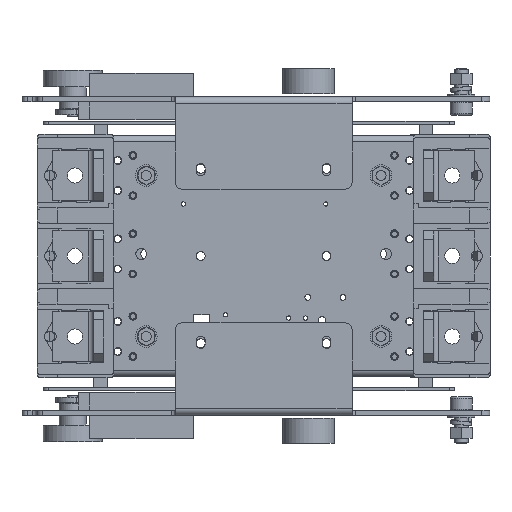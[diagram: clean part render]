
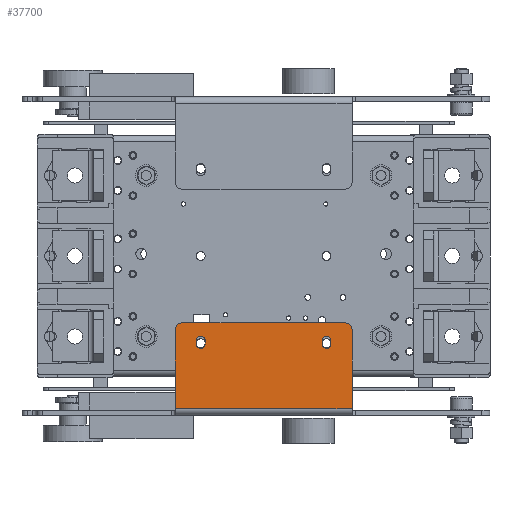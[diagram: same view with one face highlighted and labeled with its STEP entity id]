
A CAD part, front view. The second image highlights one B-rep face of the part: STEP entity #37700.
In plain terms, the highlighted planar face has unit normal (0, -1, 0).
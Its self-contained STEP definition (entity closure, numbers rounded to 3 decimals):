
#746 = EDGE_CURVE ( 'NONE', #81003, #15005, #38614, .T. ) ;
#1554 = CARTESIAN_POINT ( 'NONE',  ( 1444.541, -152.876, 41.374 ) ) ;
#2822 = DIRECTION ( 'NONE',  ( -1., 0., 0. ) ) ;
#2895 = EDGE_CURVE ( 'NONE', #21488, #31928, #68756, .T. ) ;
#2909 = DIRECTION ( 'NONE',  ( 0., 0., 1. ) ) ;
#3080 = ORIENTED_EDGE ( 'NONE', *, *, #39339, .F. ) ;
#3296 = LINE ( 'NONE', #84015, #74083 ) ;
#5122 = DIRECTION ( 'NONE',  ( 0., 0., -1. ) ) ;
#6349 = DIRECTION ( 'NONE',  ( 0., -1., 0. ) ) ;
#6885 = DIRECTION ( 'NONE',  ( 0., 0., 1. ) ) ;
#7915 = CARTESIAN_POINT ( 'NONE',  ( 1532.191, -152.876, 38.7 ) ) ;
#8948 = VERTEX_POINT ( 'NONE', #23235 ) ;
#10518 = VERTEX_POINT ( 'NONE', #15829 ) ;
#13260 = ORIENTED_EDGE ( 'NONE', *, *, #2895, .F. ) ;
#14036 = PLANE ( 'NONE',  #93049 ) ;
#14092 = AXIS2_PLACEMENT_3D ( 'NONE', #34332, #63656, #19898 ) ;
#14301 = VERTEX_POINT ( 'NONE', #68399 ) ;
#14721 = CIRCLE ( 'NONE', #68436, 2.6 ) ;
#15005 = VERTEX_POINT ( 'NONE', #65803 ) ;
#15249 = ORIENTED_EDGE ( 'NONE', *, *, #90782, .F. ) ;
#15829 = CARTESIAN_POINT ( 'NONE',  ( 1448.541, -152.876, 49.3 ) ) ;
#17214 = CIRCLE ( 'NONE', #70953, 2.6 ) ;
#18019 = EDGE_CURVE ( 'NONE', #8948, #36654, #61028, .T. ) ;
#18722 = VERTEX_POINT ( 'NONE', #7915 ) ;
#19162 = CARTESIAN_POINT ( 'NONE',  ( 1550.041, -152.876, -5.926 ) ) ;
#19898 = DIRECTION ( 'NONE',  ( 1., 0., 0. ) ) ;
#20790 = FACE_BOUND ( 'NONE', #24992, .T. ) ;
#21182 = ORIENTED_EDGE ( 'NONE', *, *, #53079, .T. ) ;
#21488 = VERTEX_POINT ( 'NONE', #29281 ) ;
#22322 = ORIENTED_EDGE ( 'NONE', *, *, #52434, .F. ) ;
#22691 = DIRECTION ( 'NONE',  ( 0., -1., 0. ) ) ;
#23235 = CARTESIAN_POINT ( 'NONE',  ( 1550.041, -152.876, 45.3 ) ) ;
#24957 = CARTESIAN_POINT ( 'NONE',  ( 1534.791, -152.876, 38.7 ) ) ;
#24992 = EDGE_LOOP ( 'NONE', ( #25583, #32950, #13260, #62820 ) ) ;
#25097 = AXIS2_PLACEMENT_3D ( 'NONE', #81311, #22691, #43858 ) ;
#25583 = ORIENTED_EDGE ( 'NONE', *, *, #35090, .F. ) ;
#25856 = DIRECTION ( 'NONE',  ( 0., 0., -1. ) ) ;
#27456 = DIRECTION ( 'NONE',  ( 0., -1., 0. ) ) ;
#27906 = CIRCLE ( 'NONE', #14092, 2.6 ) ;
#28716 = EDGE_LOOP ( 'NONE', ( #3080, #15249, #78625, #22322 ) ) ;
#29065 = LINE ( 'NONE', #58365, #66468 ) ;
#29224 = DIRECTION ( 'NONE',  ( 1., 0., 0. ) ) ;
#29240 = VECTOR ( 'NONE', #2909, 1000. ) ;
#29281 = CARTESIAN_POINT ( 'NONE',  ( 1462.391, -152.876, 36.7 ) ) ;
#30388 = CARTESIAN_POINT ( 'NONE',  ( 1537.391, -152.876, 36.7 ) ) ;
#31928 = VERTEX_POINT ( 'NONE', #88123 ) ;
#32066 = VECTOR ( 'NONE', #6885, 1000. ) ;
#32817 = DIRECTION ( 'NONE',  ( -1., 0., 0. ) ) ;
#32950 = ORIENTED_EDGE ( 'NONE', *, *, #47820, .F. ) ;
#34332 = CARTESIAN_POINT ( 'NONE',  ( 1459.791, -152.876, 36.7 ) ) ;
#34387 = CARTESIAN_POINT ( 'NONE',  ( 1457.191, -152.876, 36.7 ) ) ;
#34663 = CARTESIAN_POINT ( 'NONE',  ( 1534.791, -152.876, 36.7 ) ) ;
#35090 = EDGE_CURVE ( 'NONE', #84688, #78782, #29065, .T. ) ;
#35361 = EDGE_CURVE ( 'NONE', #10518, #66698, #37383, .T. ) ;
#36074 = CARTESIAN_POINT ( 'NONE',  ( 1546.041, -152.876, 49.3 ) ) ;
#36654 = VERTEX_POINT ( 'NONE', #36074 ) ;
#37383 = CIRCLE ( 'NONE', #25097, 4. ) ;
#37700 = ADVANCED_FACE ( 'NONE', ( #57318, #20790, #50075 ), #14036, .T. ) ;
#38309 = AXIS2_PLACEMENT_3D ( 'NONE', #34663, #27456, #56762 ) ;
#38614 = LINE ( 'NONE', #67949, #77338 ) ;
#39339 = EDGE_CURVE ( 'NONE', #18722, #55404, #41642, .T. ) ;
#41642 = LINE ( 'NONE', #79124, #58020 ) ;
#42845 = VECTOR ( 'NONE', #48467, 1000. ) ;
#43858 = DIRECTION ( 'NONE',  ( 0., 0., -1. ) ) ;
#45297 = LINE ( 'NONE', #1554, #53659 ) ;
#47820 = EDGE_CURVE ( 'NONE', #31928, #84688, #14721, .T. ) ;
#48467 = DIRECTION ( 'NONE',  ( 0., 0., 1. ) ) ;
#50075 = FACE_OUTER_BOUND ( 'NONE', #66060, .T. ) ;
#50580 = LINE ( 'NONE', #30388, #32066 ) ;
#51199 = CARTESIAN_POINT ( 'NONE',  ( 1537.391, -152.876, 36.7 ) ) ;
#52434 = EDGE_CURVE ( 'NONE', #55404, #94802, #58264, .T. ) ;
#52504 = ORIENTED_EDGE ( 'NONE', *, *, #67055, .T. ) ;
#53079 = EDGE_CURVE ( 'NONE', #66698, #15005, #45297, .T. ) ;
#53659 = VECTOR ( 'NONE', #88561, 1000. ) ;
#54757 = EDGE_CURVE ( 'NONE', #78782, #21488, #27906, .T. ) ;
#54839 = AXIS2_PLACEMENT_3D ( 'NONE', #62392, #68651, #25856 ) ;
#55181 = DIRECTION ( 'NONE',  ( 1., 0., 0. ) ) ;
#55404 = VERTEX_POINT ( 'NONE', #61888 ) ;
#56762 = DIRECTION ( 'NONE',  ( 1., 0., 0. ) ) ;
#57318 = FACE_BOUND ( 'NONE', #28716, .T. ) ;
#58020 = VECTOR ( 'NONE', #5122, 1000. ) ;
#58264 = CIRCLE ( 'NONE', #38309, 2.6 ) ;
#58365 = CARTESIAN_POINT ( 'NONE',  ( 1457.191, -152.876, 38.7 ) ) ;
#59323 = DIRECTION ( 'NONE',  ( 0., 0., -1. ) ) ;
#59557 = CARTESIAN_POINT ( 'NONE',  ( 1457.191, -152.876, 38.7 ) ) ;
#61028 = CIRCLE ( 'NONE', #54839, 4. ) ;
#61888 = CARTESIAN_POINT ( 'NONE',  ( 1532.191, -152.876, 36.7 ) ) ;
#62392 = CARTESIAN_POINT ( 'NONE',  ( 1546.041, -152.876, 45.3 ) ) ;
#62820 = ORIENTED_EDGE ( 'NONE', *, *, #54757, .F. ) ;
#63480 = CARTESIAN_POINT ( 'NONE',  ( 1550.041, -152.876, -1.8 ) ) ;
#63628 = CARTESIAN_POINT ( 'NONE',  ( 1444.541, -152.876, 45.3 ) ) ;
#63656 = DIRECTION ( 'NONE',  ( 0., -1., 0. ) ) ;
#65016 = DIRECTION ( 'NONE',  ( 0., 0., -1. ) ) ;
#65750 = CARTESIAN_POINT ( 'NONE',  ( 1459.791, -152.876, 38.7 ) ) ;
#65803 = CARTESIAN_POINT ( 'NONE',  ( 1444.541, -152.876, -1.8 ) ) ;
#66060 = EDGE_LOOP ( 'NONE', ( #88699, #21182, #72406, #52504, #66365, #90895 ) ) ;
#66365 = ORIENTED_EDGE ( 'NONE', *, *, #18019, .T. ) ;
#66468 = VECTOR ( 'NONE', #59323, 1000. ) ;
#66698 = VERTEX_POINT ( 'NONE', #63628 ) ;
#66856 = EDGE_CURVE ( 'NONE', #94802, #14301, #50580, .T. ) ;
#67055 = EDGE_CURVE ( 'NONE', #81003, #8948, #85012, .T. ) ;
#67949 = CARTESIAN_POINT ( 'NONE',  ( 1769.824, -152.876, -1.8 ) ) ;
#68399 = CARTESIAN_POINT ( 'NONE',  ( 1537.391, -152.876, 38.7 ) ) ;
#68436 = AXIS2_PLACEMENT_3D ( 'NONE', #65750, #80648, #29224 ) ;
#68651 = DIRECTION ( 'NONE',  ( 0., -1., 0. ) ) ;
#68756 = LINE ( 'NONE', #82709, #29240 ) ;
#69957 = EDGE_CURVE ( 'NONE', #36654, #10518, #3296, .T. ) ;
#70953 = AXIS2_PLACEMENT_3D ( 'NONE', #24957, #89838, #55181 ) ;
#72406 = ORIENTED_EDGE ( 'NONE', *, *, #746, .F. ) ;
#74083 = VECTOR ( 'NONE', #2822, 1000. ) ;
#77338 = VECTOR ( 'NONE', #32817, 1000. ) ;
#78625 = ORIENTED_EDGE ( 'NONE', *, *, #66856, .F. ) ;
#78782 = VERTEX_POINT ( 'NONE', #34387 ) ;
#79124 = CARTESIAN_POINT ( 'NONE',  ( 1532.191, -152.876, 38.7 ) ) ;
#79406 = CARTESIAN_POINT ( 'NONE',  ( 1467.477, -152.876, -164.926 ) ) ;
#80648 = DIRECTION ( 'NONE',  ( 0., -1., 0. ) ) ;
#81003 = VERTEX_POINT ( 'NONE', #63480 ) ;
#81311 = CARTESIAN_POINT ( 'NONE',  ( 1448.541, -152.876, 45.3 ) ) ;
#82709 = CARTESIAN_POINT ( 'NONE',  ( 1462.391, -152.876, 36.7 ) ) ;
#84015 = CARTESIAN_POINT ( 'NONE',  ( 1546.041, -152.876, 49.3 ) ) ;
#84688 = VERTEX_POINT ( 'NONE', #59557 ) ;
#85012 = LINE ( 'NONE', #19162, #42845 ) ;
#88123 = CARTESIAN_POINT ( 'NONE',  ( 1462.391, -152.876, 38.7 ) ) ;
#88561 = DIRECTION ( 'NONE',  ( 0., 0., -1. ) ) ;
#88699 = ORIENTED_EDGE ( 'NONE', *, *, #35361, .T. ) ;
#89838 = DIRECTION ( 'NONE',  ( 0., -1., 0. ) ) ;
#90782 = EDGE_CURVE ( 'NONE', #14301, #18722, #17214, .T. ) ;
#90895 = ORIENTED_EDGE ( 'NONE', *, *, #69957, .T. ) ;
#93049 = AXIS2_PLACEMENT_3D ( 'NONE', #79406, #6349, #65016 ) ;
#94802 = VERTEX_POINT ( 'NONE', #51199 ) ;
